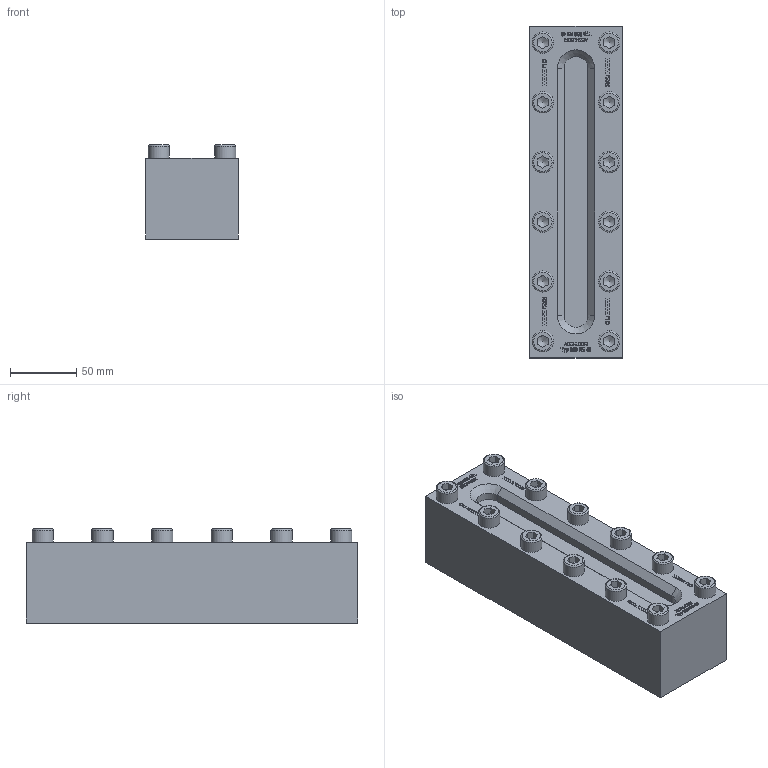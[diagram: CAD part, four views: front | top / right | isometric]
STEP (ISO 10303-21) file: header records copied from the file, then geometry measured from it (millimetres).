
FILE_DESCRIPTION(/* description */ (''),/* implementation_level */ '2;1');
FILE_NAME(/* name */ 'W:\Konstruktion_ACI\330\_Zeichnungen\STEP\ACI-330-250-40.stp',/* time_stamp */ '2022-03-01T17:10:46+01:00',/* author */ ('koslowksi'),/* organization */ (''),/* preprocessor_version */ 'ST-DEVELOPER v16.1',/* originating_system */ 'Autodesk Inventor 2016',/* authorisation */ '');
FILE_SCHEMA (('AUTOMOTIVE_DESIGN { 1 0 10303 214 3 1 1 }'));
Length unit declared in the file: centimetre
Products named in the file (1): ACI-330-250-40.stp
Bounding box: 70 x 250 x 70.9 mm (x, y, z)
Volume: 970062.6 mm3; surface area: 93738 mm2
Topology: 1 solids, 1 shells, 1236 faces, 3338 edges, 2220 vertices
Faces by surface type: plane 892, bspline 302, cylinder 16, cone 14, torus 12
Full cylindrical faces by diameter (mm): 16 x12
Entity records: 40596 total; most frequent: CARTESIAN_POINT 10781, ORIENTED_EDGE 6556, DIRECTION 4518, EDGE_CURVE 3278, LINE 2556, VECTOR 2556, VERTEX_POINT 2196, EDGE_LOOP 1388
